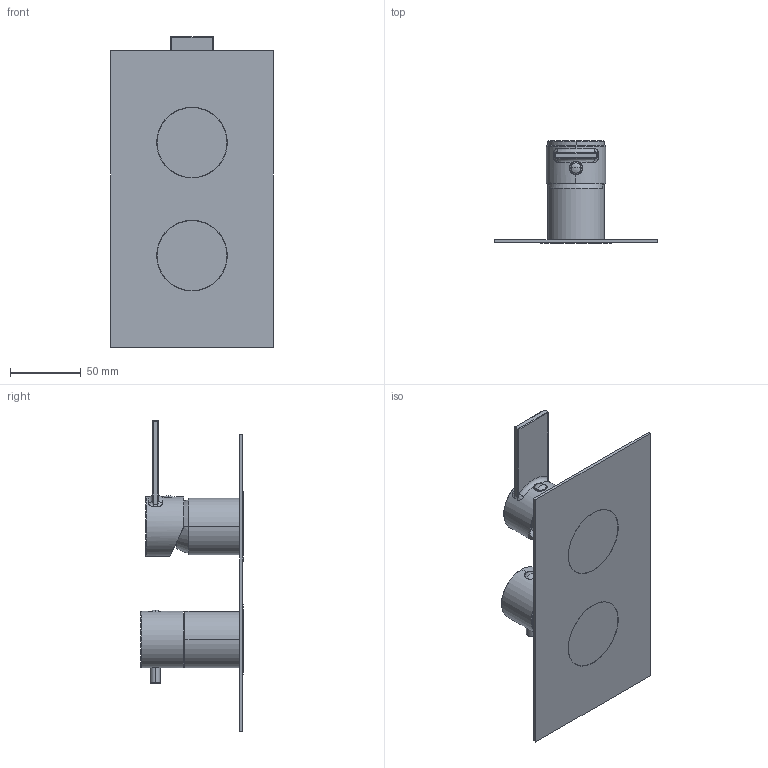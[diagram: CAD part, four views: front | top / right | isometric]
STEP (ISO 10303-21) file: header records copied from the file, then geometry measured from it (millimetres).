
FILE_DESCRIPTION((''),'2;1');
FILE_NAME('55523V2_SW0001','2020-09-24T13:20:31',('volponeff'),(''),'CREO PARAMETRIC BY PTC INC, 2018100','CREO PARAMETRIC BY PTC INC, 2018100','');
FILE_SCHEMA(('CONFIG_CONTROL_DESIGN'));
Length unit declared in the file: millimetre
Products named in the file (1): 55523V2_SW0001
Bounding box: 115 x 72.2 x 220 mm (x, y, z)
Volume: 144261 mm3; surface area: 105432.2 mm2
Topology: 1 solids, 4 shells, 902 faces, 2549 edges, 1691 vertices
Faces by surface type: plane 408, cylinder 252, torus 98, cone 62, extrusion 54, bspline 20, sphere 8
Entity records: 34016 total; most frequent: CARTESIAN_POINT 10469, ORIENTED_EDGE 5086, DIRECTION 4780, EDGE_CURVE 2543, AXIS2_PLACEMENT_3D 1702, VERTEX_POINT 1691, VECTOR 1376, LINE 1322
